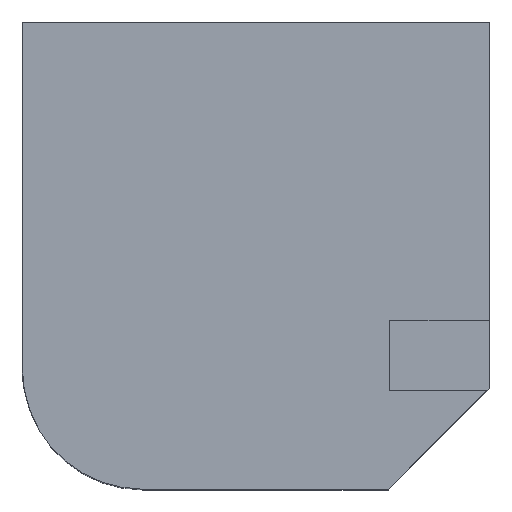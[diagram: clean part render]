
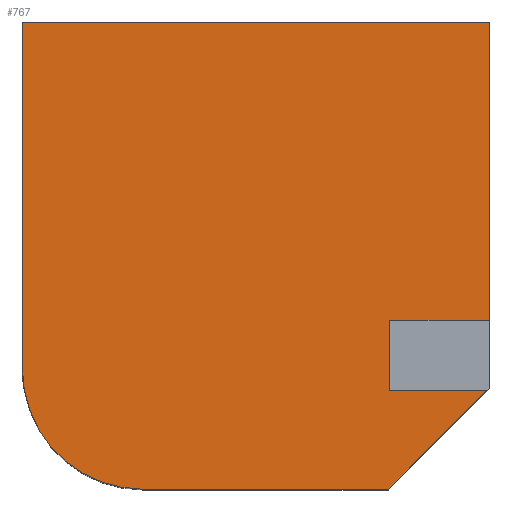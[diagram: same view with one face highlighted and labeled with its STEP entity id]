
A CAD part, top view. The second image highlights one B-rep face of the part: STEP entity #767.
In plain terms, the highlighted planar face has unit normal (0, 0, 1).
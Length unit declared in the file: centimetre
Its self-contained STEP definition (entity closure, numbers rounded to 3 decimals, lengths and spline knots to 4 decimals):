
#33 = EDGE_CURVE ( 'NONE', #1294, #430, #548, .T. ) ;
#51 = CARTESIAN_POINT ( 'NONE',  ( 0., 1000., 1000. ) ) ;
#55 = VECTOR ( 'NONE', #1030, 100. ) ;
#61 = LINE ( 'NONE', #479, #662 ) ;
#90 = ORIENTED_EDGE ( 'NONE', *, *, #741, .F. ) ;
#92 = DIRECTION ( 'NONE',  ( 1., 0., 0. ) ) ;
#114 = ORIENTED_EDGE ( 'NONE', *, *, #33, .T. ) ;
#180 = LINE ( 'NONE', #906, #1043 ) ;
#207 = VECTOR ( 'NONE', #504, 100. ) ;
#225 = EDGE_CURVE ( 'NONE', #1294, #378, #61, .T. ) ;
#227 = VERTEX_POINT ( 'NONE', #1210 ) ;
#232 = AXIS2_PLACEMENT_3D ( 'NONE', #922, #413, #297 ) ;
#239 = VERTEX_POINT ( 'NONE', #379 ) ;
#285 = EDGE_CURVE ( 'NONE', #401, #227, #1019, .T. ) ;
#290 = EDGE_LOOP ( 'NONE', ( #90, #1049, #114, #757, #927, #445, #577, #1156, #868 ) ) ;
#297 = DIRECTION ( 'NONE',  ( 1., 0., 0. ) ) ;
#308 = EDGE_CURVE ( 'NONE', #1036, #401, #592, .T. ) ;
#324 = VECTOR ( 'NONE', #878, 100. ) ;
#357 = CARTESIAN_POINT ( 'NONE',  ( 786.0318, 361.8335, 1000. ) ) ;
#378 = VERTEX_POINT ( 'NONE', #512 ) ;
#379 = CARTESIAN_POINT ( 'NONE',  ( 0., 1000., 1000. ) ) ;
#385 = VECTOR ( 'NONE', #92, 100. ) ;
#391 = DIRECTION ( 'NONE',  ( 0., -1., 0. ) ) ;
#401 = VERTEX_POINT ( 'NONE', #1135 ) ;
#402 = VECTOR ( 'NONE', #1297, 100. ) ;
#413 = DIRECTION ( 'NONE',  ( 0., 0., 1. ) ) ;
#415 = CARTESIAN_POINT ( 'NONE',  ( 1000., 361.8335, 1000. ) ) ;
#430 = VERTEX_POINT ( 'NONE', #415 ) ;
#445 = ORIENTED_EDGE ( 'NONE', *, *, #691, .T. ) ;
#454 = CARTESIAN_POINT ( 'NONE',  ( 1000., 1000., 1000. ) ) ;
#463 = EDGE_CURVE ( 'NONE', #957, #239, #539, .T. ) ;
#479 = CARTESIAN_POINT ( 'NONE',  ( 786.0318, 211.6597, 1000. ) ) ;
#481 = LINE ( 'NONE', #890, #402 ) ;
#497 = DIRECTION ( 'NONE',  ( 1., 0., 0. ) ) ;
#502 = CARTESIAN_POINT ( 'NONE',  ( 0., 0., 1000. ) ) ;
#504 = DIRECTION ( 'NONE',  ( 0., 1., 0. ) ) ;
#512 = CARTESIAN_POINT ( 'NONE',  ( 786.0318, 211.6597, 1000. ) ) ;
#539 = LINE ( 'NONE', #545, #55 ) ;
#545 = CARTESIAN_POINT ( 'NONE',  ( 0., 1000., 1000. ) ) ;
#548 = LINE ( 'NONE', #357, #681 ) ;
#577 = ORIENTED_EDGE ( 'NONE', *, *, #308, .T. ) ;
#592 = CIRCLE ( 'NONE', #232, 257.6424 ) ;
#598 = CARTESIAN_POINT ( 'NONE',  ( 1000., 1000., 1000. ) ) ;
#603 = VERTEX_POINT ( 'NONE', #829 ) ;
#662 = VECTOR ( 'NONE', #391, 100. ) ;
#681 = VECTOR ( 'NONE', #1157, 100. ) ;
#691 = EDGE_CURVE ( 'NONE', #239, #1036, #1077, .T. ) ;
#714 = DIRECTION ( 'NONE',  ( 0., 0., 1. ) ) ;
#741 = EDGE_CURVE ( 'NONE', #378, #603, #481, .T. ) ;
#757 = ORIENTED_EDGE ( 'NONE', *, *, #842, .T. ) ;
#767 = ADVANCED_FACE ( 'NONE', ( #1316 ), #1009, .T. ) ;
#802 = DIRECTION ( 'NONE',  ( 0.707, 0.707, 0. ) ) ;
#829 = CARTESIAN_POINT ( 'NONE',  ( 994.3143, 211.6597, 1000. ) ) ;
#842 = EDGE_CURVE ( 'NONE', #430, #957, #1106, .T. ) ;
#868 = ORIENTED_EDGE ( 'NONE', *, *, #1143, .T. ) ;
#878 = DIRECTION ( 'NONE',  ( 0., -1., 0. ) ) ;
#890 = CARTESIAN_POINT ( 'NONE',  ( 786.0318, 211.6597, 1000. ) ) ;
#906 = CARTESIAN_POINT ( 'NONE',  ( 391.3273, -391.3273, 1000. ) ) ;
#922 = CARTESIAN_POINT ( 'NONE',  ( 257.6424, 257.6424, 1000. ) ) ;
#927 = ORIENTED_EDGE ( 'NONE', *, *, #463, .T. ) ;
#957 = VERTEX_POINT ( 'NONE', #454 ) ;
#961 = CARTESIAN_POINT ( 'NONE',  ( 0., 257.6424, 1000. ) ) ;
#964 = AXIS2_PLACEMENT_3D ( 'NONE', #1021, #714, #497 ) ;
#1009 = PLANE ( 'NONE',  #964 ) ;
#1015 = CARTESIAN_POINT ( 'NONE',  ( 786.0318, 361.8335, 1000. ) ) ;
#1019 = LINE ( 'NONE', #502, #385 ) ;
#1021 = CARTESIAN_POINT ( 'NONE',  ( 0., 0., 1000. ) ) ;
#1030 = DIRECTION ( 'NONE',  ( -1., 0., 0. ) ) ;
#1036 = VERTEX_POINT ( 'NONE', #961 ) ;
#1043 = VECTOR ( 'NONE', #802, 100. ) ;
#1049 = ORIENTED_EDGE ( 'NONE', *, *, #225, .F. ) ;
#1077 = LINE ( 'NONE', #51, #324 ) ;
#1106 = LINE ( 'NONE', #598, #207 ) ;
#1135 = CARTESIAN_POINT ( 'NONE',  ( 257.6424, 0., 1000. ) ) ;
#1143 = EDGE_CURVE ( 'NONE', #227, #603, #180, .T. ) ;
#1156 = ORIENTED_EDGE ( 'NONE', *, *, #285, .T. ) ;
#1157 = DIRECTION ( 'NONE',  ( 1., 0., 0. ) ) ;
#1210 = CARTESIAN_POINT ( 'NONE',  ( 782.6546, 0., 1000. ) ) ;
#1294 = VERTEX_POINT ( 'NONE', #1015 ) ;
#1297 = DIRECTION ( 'NONE',  ( 1., 0., 0. ) ) ;
#1316 = FACE_OUTER_BOUND ( 'NONE', #290, .T. ) ;
